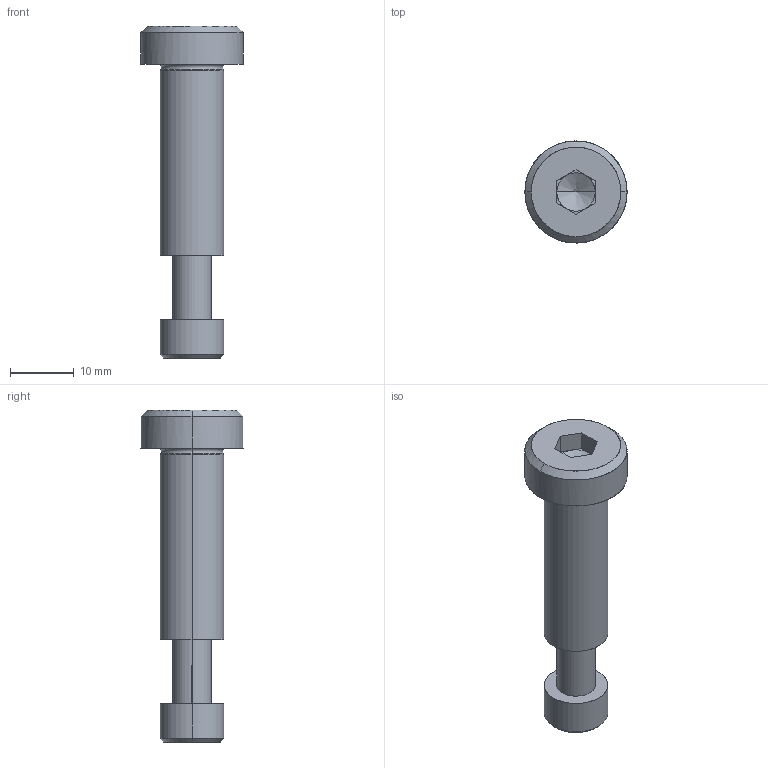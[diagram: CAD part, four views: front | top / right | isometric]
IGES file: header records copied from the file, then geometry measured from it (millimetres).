
Global section: file name: E:\UnigraphicsGraphicData\MISUMI_PRESS-PARTS\IGES\3d_sbtc10-30_05099_r00.igs; native system: NX V5.0; preprocessor: UGS NX IGES V5.0; author: MISUMI; date: 20110105.162442; units: millimetre
Bounding box: 16 x 16 x 52 mm (x, y, z)
Surface area: 2851.8 mm2 (no closed solid volume)
Topology: 0 solids, 0 shells, 52 faces, 280 edges, 276 vertices
Faces by surface type: bspline 52
